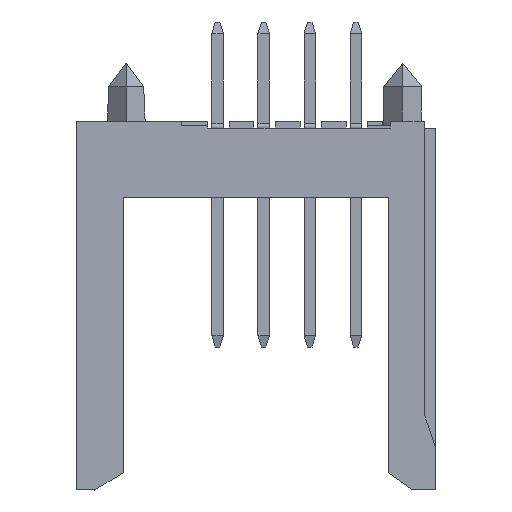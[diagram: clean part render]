
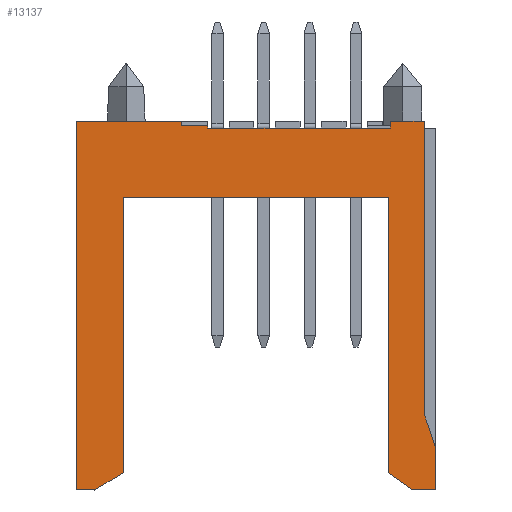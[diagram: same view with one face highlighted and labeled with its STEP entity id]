
A CAD part, left-side view. The second image highlights one B-rep face of the part: STEP entity #13137.
In plain terms, the highlighted planar face has unit normal (-1, 0, 0).
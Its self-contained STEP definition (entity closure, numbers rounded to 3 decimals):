
#1366 = LINE ( 'NONE', #1387, #6540 ) ;
#1383 = LINE ( 'NONE', #1385, #6534 ) ;
#1385 = CARTESIAN_POINT ( 'NONE',  ( 36.013, -7.8, 12.7 ) ) ;
#1386 = DIRECTION ( 'NONE',  ( 0., -1., 0. ) ) ;
#1387 = CARTESIAN_POINT ( 'NONE',  ( 36.013, -7.3, 0. ) ) ;
#1388 = DIRECTION ( 'NONE',  ( 0., -1., 0. ) ) ;
#1389 = LINE ( 'NONE', #1390, #6523 ) ;
#1390 = CARTESIAN_POINT ( 'NONE',  ( 36.013, -7.8, 7.85 ) ) ;
#1391 = DIRECTION ( 'NONE',  ( 0., 0., 1. ) ) ;
#1392 = LINE ( 'NONE', #1393, #6522 ) ;
#1393 = CARTESIAN_POINT ( 'NONE',  ( 36.013, -7.55, 2.55 ) ) ;
#1394 = DIRECTION ( 'NONE',  ( 0., 0.316, 0.949 ) ) ;
#1395 = LINE ( 'NONE', #1396, #6521 ) ;
#1396 = CARTESIAN_POINT ( 'NONE',  ( 36.013, 0., 15.7 ) ) ;
#1397 = DIRECTION ( 'NONE',  ( 0., 1., 0. ) ) ;
#1398 = LINE ( 'NONE', #1399, #6515 ) ;
#1399 = CARTESIAN_POINT ( 'NONE',  ( 36.013, 7.8, 8. ) ) ;
#1400 = DIRECTION ( 'NONE',  ( 0., 0., -1. ) ) ;
#1401 = LINE ( 'NONE', #1402, #6513 ) ;
#1402 = CARTESIAN_POINT ( 'NONE',  ( 36.013, 5.75, 6.725 ) ) ;
#1403 = DIRECTION ( 'NONE',  ( 0., 0., 1. ) ) ;
#2262 = ORIENTED_EDGE ( 'NONE', *, *, #13732, .T. ) ;
#2263 = ORIENTED_EDGE ( 'NONE', *, *, #13716, .T. ) ;
#2371 = ORIENTED_EDGE ( 'NONE', *, *, #11066, .T. ) ;
#2411 = ORIENTED_EDGE ( 'NONE', *, *, #11168, .T. ) ;
#3030 = LINE ( 'NONE', #3041, #6214 ) ;
#3041 = CARTESIAN_POINT ( 'NONE',  ( 36.013, 2.09, 15.75 ) ) ;
#3042 = DIRECTION ( 'NONE',  ( 0., 0., 1. ) ) ;
#3103 = LINE ( 'NONE', #3104, #6140 ) ;
#3104 = CARTESIAN_POINT ( 'NONE',  ( 36.013, 3.24, 15.9 ) ) ;
#3105 = DIRECTION ( 'NONE',  ( 0., 0., 1. ) ) ;
#3341 = CARTESIAN_POINT ( 'NONE',  ( 36.013, -7.8, 1.8 ) ) ;
#3351 = CARTESIAN_POINT ( 'NONE',  ( 36.013, 5.75, 12.7 ) ) ;
#3392 = CARTESIAN_POINT ( 'NONE',  ( 36.013, 7., 0. ) ) ;
#3442 = CARTESIAN_POINT ( 'NONE',  ( 36.013, -7.8, 0. ) ) ;
#4091 = PLANE ( 'NONE',  #6472 ) ;
#4093 = CARTESIAN_POINT ( 'NONE',  ( 36.013, -7.8, 0. ) ) ;
#4097 = FACE_OUTER_BOUND ( 'NONE', #8247, .T. ) ;
#4099 = DIRECTION ( 'NONE',  ( -1., 0., 0. ) ) ;
#4100 = DIRECTION ( 'NONE',  ( 0., 0., 1. ) ) ;
#5370 = VERTEX_POINT ( 'NONE', #12538 ) ;
#5804 = VERTEX_POINT ( 'NONE', #12189 ) ;
#5838 = VERTEX_POINT ( 'NONE', #12202 ) ;
#5899 = LINE ( 'NONE', #5900, #7123 ) ;
#5900 = CARTESIAN_POINT ( 'NONE',  ( 36.013, 0., 16. ) ) ;
#5901 = DIRECTION ( 'NONE',  ( 0., 1., 0. ) ) ;
#5914 = LINE ( 'NONE', #5915, #7148 ) ;
#5915 = CARTESIAN_POINT ( 'NONE',  ( 36.013, -5.83, 8. ) ) ;
#5916 = DIRECTION ( 'NONE',  ( 0., 0., -1. ) ) ;
#5920 = LINE ( 'NONE', #5921, #7165 ) ;
#5921 = CARTESIAN_POINT ( 'NONE',  ( 36.013, 0., 15.8 ) ) ;
#5922 = DIRECTION ( 'NONE',  ( 0., 1., 0. ) ) ;
#5929 = LINE ( 'NONE', #5930, #7182 ) ;
#5930 = CARTESIAN_POINT ( 'NONE',  ( 36.013, 0., 16. ) ) ;
#5931 = DIRECTION ( 'NONE',  ( 0., 1., 0. ) ) ;
#5932 = LINE ( 'NONE', #5933, #7187 ) ;
#5933 = CARTESIAN_POINT ( 'NONE',  ( 36.013, -7.3, 8. ) ) ;
#5934 = DIRECTION ( 'NONE',  ( 0., 0., 1. ) ) ;
#5968 = LINE ( 'NONE', #5969, #7239 ) ;
#5969 = CARTESIAN_POINT ( 'NONE',  ( 36.013, 0., 0. ) ) ;
#5970 = DIRECTION ( 'NONE',  ( 0., -1., 0. ) ) ;
#6140 = VECTOR ( 'NONE', #3105, 1000. ) ;
#6214 = VECTOR ( 'NONE', #3042, 1000. ) ;
#6472 = AXIS2_PLACEMENT_3D ( 'NONE', #4093, #4099, #4100 ) ;
#6513 = VECTOR ( 'NONE', #1403, 1000. ) ;
#6515 = VECTOR ( 'NONE', #1400, 1000. ) ;
#6521 = VECTOR ( 'NONE', #1397, 1000. ) ;
#6522 = VECTOR ( 'NONE', #1394, 1000. ) ;
#6523 = VECTOR ( 'NONE', #1391, 1000. ) ;
#6534 = VECTOR ( 'NONE', #1386, 1000. ) ;
#6540 = VECTOR ( 'NONE', #1388, 1000. ) ;
#7123 = VECTOR ( 'NONE', #5901, 1000. ) ;
#7148 = VECTOR ( 'NONE', #5916, 1000. ) ;
#7165 = VECTOR ( 'NONE', #5922, 1000. ) ;
#7182 = VECTOR ( 'NONE', #5931, 1000. ) ;
#7187 = VECTOR ( 'NONE', #5934, 1000. ) ;
#7239 = VECTOR ( 'NONE', #5970, 1000. ) ;
#7488 = CARTESIAN_POINT ( 'NONE',  ( 36.013, 3.24, 15.8 ) ) ;
#7566 = VERTEX_POINT ( 'NONE', #12230 ) ;
#7585 = VERTEX_POINT ( 'NONE', #7488 ) ;
#7718 = VERTEX_POINT ( 'NONE', #15520 ) ;
#7736 = VERTEX_POINT ( 'NONE', #15531 ) ;
#7765 = VERTEX_POINT ( 'NONE', #15554 ) ;
#7870 = VERTEX_POINT ( 'NONE', #15617 ) ;
#8085 = VERTEX_POINT ( 'NONE', #15732 ) ;
#8247 = EDGE_LOOP ( 'NONE', ( #9326, #9110, #9287, #9420, #9104, #9479, #9311, #9471, #9440, #9134, #9077, #2263, #2411, #9189, #9399, #2262, #9258, #2371 ) ) ;
#8313 = VERTEX_POINT ( 'NONE', #15863 ) ;
#8317 = VERTEX_POINT ( 'NONE', #15872 ) ;
#8408 = VERTEX_POINT ( 'NONE', #15942 ) ;
#8437 = VERTEX_POINT ( 'NONE', #15968 ) ;
#9077 = ORIENTED_EDGE ( 'NONE', *, *, #11147, .T. ) ;
#9104 = ORIENTED_EDGE ( 'NONE', *, *, #11062, .T. ) ;
#9110 = ORIENTED_EDGE ( 'NONE', *, *, #14719, .T. ) ;
#9134 = ORIENTED_EDGE ( 'NONE', *, *, #11064, .T. ) ;
#9189 = ORIENTED_EDGE ( 'NONE', *, *, #13719, .T. ) ;
#9258 = ORIENTED_EDGE ( 'NONE', *, *, #14409, .T. ) ;
#9287 = ORIENTED_EDGE ( 'NONE', *, *, #14698, .T. ) ;
#9311 = ORIENTED_EDGE ( 'NONE', *, *, #13720, .T. ) ;
#9326 = ORIENTED_EDGE ( 'NONE', *, *, #11060, .T. ) ;
#9399 = ORIENTED_EDGE ( 'NONE', *, *, #11065, .T. ) ;
#9420 = ORIENTED_EDGE ( 'NONE', *, *, #11061, .T. ) ;
#9440 = ORIENTED_EDGE ( 'NONE', *, *, #13714, .T. ) ;
#9471 = ORIENTED_EDGE ( 'NONE', *, *, #13709, .T. ) ;
#9479 = ORIENTED_EDGE ( 'NONE', *, *, #11063, .T. ) ;
#10077 = LINE ( 'NONE', #10106, #14035 ) ;
#10106 = CARTESIAN_POINT ( 'NONE',  ( 36.013, 7., 0. ) ) ;
#10107 = DIRECTION ( 'NONE',  ( 0., -0.857, 0.514 ) ) ;
#11060 = EDGE_CURVE ( 'NONE', #11396, #7870, #1383, .T. ) ;
#11061 = EDGE_CURVE ( 'NONE', #8317, #11761, #1366, .T. ) ;
#11062 = EDGE_CURVE ( 'NONE', #11761, #11388, #1389, .T. ) ;
#11063 = EDGE_CURVE ( 'NONE', #11388, #7736, #1392, .T. ) ;
#11064 = EDGE_CURVE ( 'NONE', #7566, #5838, #1395, .T. ) ;
#11065 = EDGE_CURVE ( 'NONE', #7765, #8408, #1398, .T. ) ;
#11066 = EDGE_CURVE ( 'NONE', #8437, #11396, #1401, .T. ) ;
#11147 = EDGE_CURVE ( 'NONE', #5838, #5804, #3030, .T. ) ;
#11168 = EDGE_CURVE ( 'NONE', #7585, #5370, #3103, .T. ) ;
#11388 = VERTEX_POINT ( 'NONE', #3341 ) ;
#11396 = VERTEX_POINT ( 'NONE', #3351 ) ;
#11551 = VERTEX_POINT ( 'NONE', #3392 ) ;
#11761 = VERTEX_POINT ( 'NONE', #3442 ) ;
#12189 = CARTESIAN_POINT ( 'NONE',  ( 36.013, 2.09, 15.8 ) ) ;
#12202 = CARTESIAN_POINT ( 'NONE',  ( 36.013, 2.09, 15.7 ) ) ;
#12230 = CARTESIAN_POINT ( 'NONE',  ( 36.013, -5.83, 15.7 ) ) ;
#12538 = CARTESIAN_POINT ( 'NONE',  ( 36.013, 3.24, 16. ) ) ;
#13137 = ADVANCED_FACE ( 'NONE', ( #4097 ), #4091, .T. ) ;
#13709 = EDGE_CURVE ( 'NONE', #8085, #7718, #5899, .T. ) ;
#13714 = EDGE_CURVE ( 'NONE', #7718, #7566, #5914, .T. ) ;
#13716 = EDGE_CURVE ( 'NONE', #5804, #7585, #5920, .T. ) ;
#13719 = EDGE_CURVE ( 'NONE', #5370, #7765, #5929, .T. ) ;
#13720 = EDGE_CURVE ( 'NONE', #7736, #8085, #5932, .T. ) ;
#13732 = EDGE_CURVE ( 'NONE', #8408, #11551, #5968, .T. ) ;
#13930 = VECTOR ( 'NONE', #14849, 1000. ) ;
#14002 = VECTOR ( 'NONE', #14912, 1000. ) ;
#14035 = VECTOR ( 'NONE', #10107, 1000. ) ;
#14409 = EDGE_CURVE ( 'NONE', #11551, #8437, #10077, .T. ) ;
#14698 = EDGE_CURVE ( 'NONE', #8313, #8317, #14847, .T. ) ;
#14719 = EDGE_CURVE ( 'NONE', #7870, #8313, #14910, .T. ) ;
#14847 = LINE ( 'NONE', #14848, #13930 ) ;
#14848 = CARTESIAN_POINT ( 'NONE',  ( 36.013, -5.75, 0.75 ) ) ;
#14849 = DIRECTION ( 'NONE',  ( 0., -0.814, -0.581 ) ) ;
#14910 = LINE ( 'NONE', #14911, #14002 ) ;
#14911 = CARTESIAN_POINT ( 'NONE',  ( 36.013, -5.75, 8. ) ) ;
#14912 = DIRECTION ( 'NONE',  ( 0., 0., -1. ) ) ;
#15520 = CARTESIAN_POINT ( 'NONE',  ( 36.013, -5.83, 16. ) ) ;
#15531 = CARTESIAN_POINT ( 'NONE',  ( 36.013, -7.3, 3.3 ) ) ;
#15554 = CARTESIAN_POINT ( 'NONE',  ( 36.013, 7.8, 16. ) ) ;
#15617 = CARTESIAN_POINT ( 'NONE',  ( 36.013, -5.75, 12.7 ) ) ;
#15732 = CARTESIAN_POINT ( 'NONE',  ( 36.013, -7.3, 16. ) ) ;
#15863 = CARTESIAN_POINT ( 'NONE',  ( 36.013, -5.75, 0.75 ) ) ;
#15872 = CARTESIAN_POINT ( 'NONE',  ( 36.013, -6.8, 0. ) ) ;
#15942 = CARTESIAN_POINT ( 'NONE',  ( 36.013, 7.8, 0. ) ) ;
#15968 = CARTESIAN_POINT ( 'NONE',  ( 36.013, 5.75, 0.75 ) ) ;
